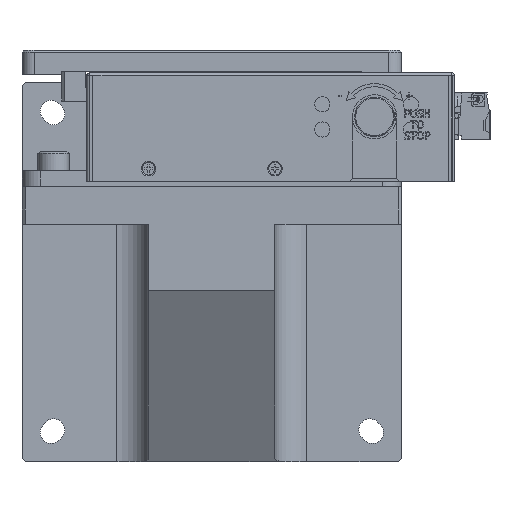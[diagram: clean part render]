
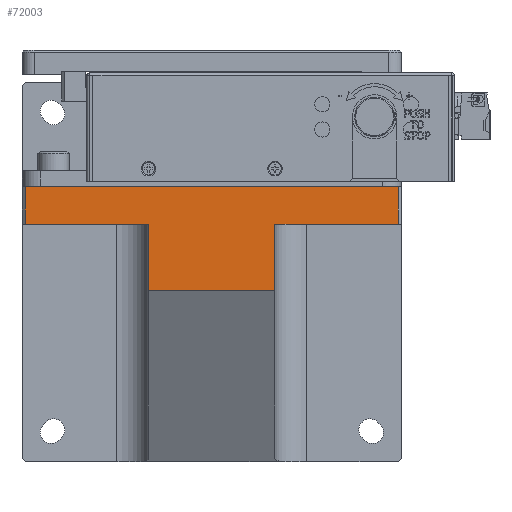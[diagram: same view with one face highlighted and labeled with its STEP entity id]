
A CAD part, left-side view. The second image highlights one B-rep face of the part: STEP entity #72003.
In plain terms, the highlighted planar face has unit normal (-1, 0, 0).
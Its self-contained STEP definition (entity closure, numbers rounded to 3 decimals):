
#4786=FACE_OUTER_BOUND('',#8739,.T.);
#8739=EDGE_LOOP('',(#45492,#45493,#45494,#45495,#45496,#45497,#45498,#45499));
#13192=LINE('',#100777,#20631);
#13198=LINE('',#100804,#20637);
#13203=LINE('',#100813,#20642);
#13218=LINE('',#100877,#20657);
#13222=LINE('',#100902,#20661);
#13267=LINE('',#101012,#20706);
#13270=LINE('',#101021,#20709);
#13307=LINE('',#101117,#20746);
#20631=VECTOR('',#82049,10.);
#20637=VECTOR('',#82073,10.);
#20642=VECTOR('',#82080,10.);
#20657=VECTOR('',#82135,10.);
#20661=VECTOR('',#82159,10.);
#20706=VECTOR('',#82246,10.);
#20709=VECTOR('',#82257,10.);
#20746=VECTOR('',#82390,10.);
#28119=VERTEX_POINT('',#100774);
#28120=VERTEX_POINT('',#100776);
#28131=VERTEX_POINT('',#100801);
#28132=VERTEX_POINT('',#100803);
#28135=VERTEX_POINT('',#100811);
#28163=VERTEX_POINT('',#100874);
#28164=VERTEX_POINT('',#100876);
#28175=VERTEX_POINT('',#100900);
#34810=EDGE_CURVE('',#28119,#28120,#13192,.T.);
#34823=EDGE_CURVE('',#28132,#28131,#13198,.T.);
#34828=EDGE_CURVE('',#28135,#28131,#13203,.T.);
#34859=EDGE_CURVE('',#28163,#28164,#13218,.T.);
#34872=EDGE_CURVE('',#28163,#28175,#13222,.T.);
#34929=EDGE_CURVE('',#28164,#28119,#13267,.T.);
#34934=EDGE_CURVE('',#28120,#28135,#13270,.T.);
#34982=EDGE_CURVE('',#28132,#28175,#13307,.T.);
#45492=ORIENTED_EDGE('',*,*,#34929,.F.);
#45493=ORIENTED_EDGE('',*,*,#34859,.F.);
#45494=ORIENTED_EDGE('',*,*,#34872,.T.);
#45495=ORIENTED_EDGE('',*,*,#34982,.F.);
#45496=ORIENTED_EDGE('',*,*,#34823,.T.);
#45497=ORIENTED_EDGE('',*,*,#34828,.F.);
#45498=ORIENTED_EDGE('',*,*,#34934,.F.);
#45499=ORIENTED_EDGE('',*,*,#34810,.F.);
#65375=PLANE('',#76224);
#72003=ADVANCED_FACE('',(#4786),#65375,.T.);
#76224=AXIS2_PLACEMENT_3D('',#101118,#82391,#82392);
#82049=DIRECTION('',(0.,-1.,0.));
#82073=DIRECTION('',(0.,0.,1.));
#82080=DIRECTION('',(0.,1.,0.));
#82135=DIRECTION('',(0.,1.,0.));
#82159=DIRECTION('',(0.,0.,-1.));
#82246=DIRECTION('',(0.,0.,1.));
#82257=DIRECTION('',(0.,0.,-1.));
#82390=DIRECTION('',(0.,1.,0.));
#82391=DIRECTION('center_axis',(-1.,0.,0.));
#82392=DIRECTION('ref_axis',(0.,1.,0.));
#100774=CARTESIAN_POINT('',(-138.,59.,-5.));
#100776=CARTESIAN_POINT('',(-138.,-59.,-5.));
#100777=CARTESIAN_POINT('',(-138.,-60.,-5.));
#100801=CARTESIAN_POINT('',(-138.,-20.,-17.));
#100803=CARTESIAN_POINT('',(-138.,-20.,-38.));
#100804=CARTESIAN_POINT('',(-138.,-20.,-38.));
#100811=CARTESIAN_POINT('',(-138.,-59.,-17.));
#100813=CARTESIAN_POINT('',(-138.,60.,-17.));
#100874=CARTESIAN_POINT('',(-138.,20.,-17.));
#100876=CARTESIAN_POINT('',(-138.,59.,-17.));
#100877=CARTESIAN_POINT('',(-138.,60.,-17.));
#100900=CARTESIAN_POINT('',(-138.,20.,-38.));
#100902=CARTESIAN_POINT('',(-138.,20.,-38.));
#101012=CARTESIAN_POINT('',(-138.,59.,-51.5));
#101021=CARTESIAN_POINT('',(-138.,-59.,8.5));
#101117=CARTESIAN_POINT('',(-138.,0.,-38.));
#101118=CARTESIAN_POINT('Origin',(-138.,0.,-11.));
